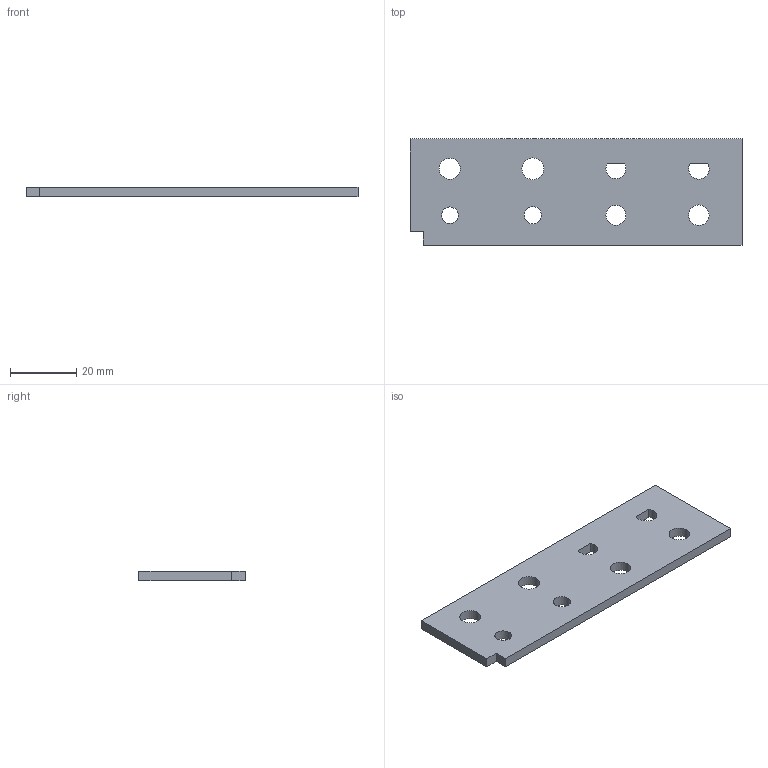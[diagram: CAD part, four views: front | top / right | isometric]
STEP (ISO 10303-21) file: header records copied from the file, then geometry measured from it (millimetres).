
FILE_DESCRIPTION(('Open CASCADE Model'),'2;1');
FILE_NAME('Open CASCADE Shape Model','2026-09-13T21:36:16',('Author'),( 'Open CASCADE'),'Open CASCADE STEP processor 7.9','Open CASCADE 7.9' ,'Unknown');
FILE_SCHEMA(('AUTOMOTIVE_DESIGN { 1 0 10303 214 1 1 1 1 }'));
Length unit declared in the file: millimetre
Products named in the file (1): Open CASCADE STEP translator 7.9 19
Bounding box: 100 x 32 x 3 mm (x, y, z)
Volume: 8916 mm3; surface area: 7177.2 mm2
Topology: 1 solids, 1 shells, 18 faces, 48 edges, 32 vertices
Faces by surface type: plane 10, cylinder 8
Full cylindrical faces by diameter (mm): 5 x1, 5.2 x1, 6 x1, 6.2 x1, 6.35 x1, 6.55 x1
Entity records: 1216 total; most frequent: CARTESIAN_POINT 231, DIRECTION 172, ORIENTED_EDGE 96, PCURVE 96, DEFINITIONAL_REPRESENTATION 96, LINE 88, VECTOR 88, EDGE_CURVE 48
